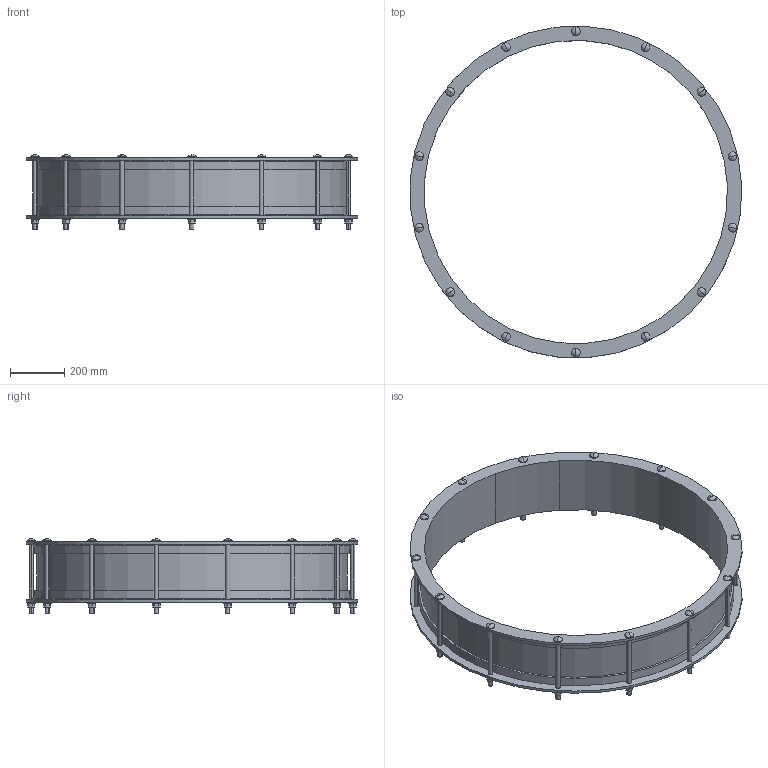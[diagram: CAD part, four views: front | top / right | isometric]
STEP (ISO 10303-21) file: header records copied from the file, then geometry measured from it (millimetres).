
FILE_DESCRIPTION((''),'2;1');
FILE_NAME('YF2_COUP_1118','2018-12-06T',('mfairey'),('Glynwed Pipe Systems'),'CREO PARAMETRIC BY PTC INC, 2016130','CREO PARAMETRIC BY PTC INC, 2016130','');
FILE_SCHEMA(('CONFIG_CONTROL_DESIGN'));
Length unit declared in the file: millimetre
Products named in the file (1): YF2_COUP_1118
Bounding box: 1224.6 x 1224.81 x 276 mm (x, y, z)
Volume: 17129302.8 mm3; surface area: 2436648.5 mm2
Topology: 1 solids, 1 shells, 286 faces, 684 edges, 430 vertices
Faces by surface type: plane 130, cylinder 120, sphere 28, cone 8
Entity records: 9414 total; most frequent: CARTESIAN_POINT 2716, DIRECTION 1392, ORIENTED_EDGE 1312, EDGE_CURVE 656, AXIS2_PLACEMENT_3D 506, VERTEX_POINT 430, VECTOR 380, LINE 380
